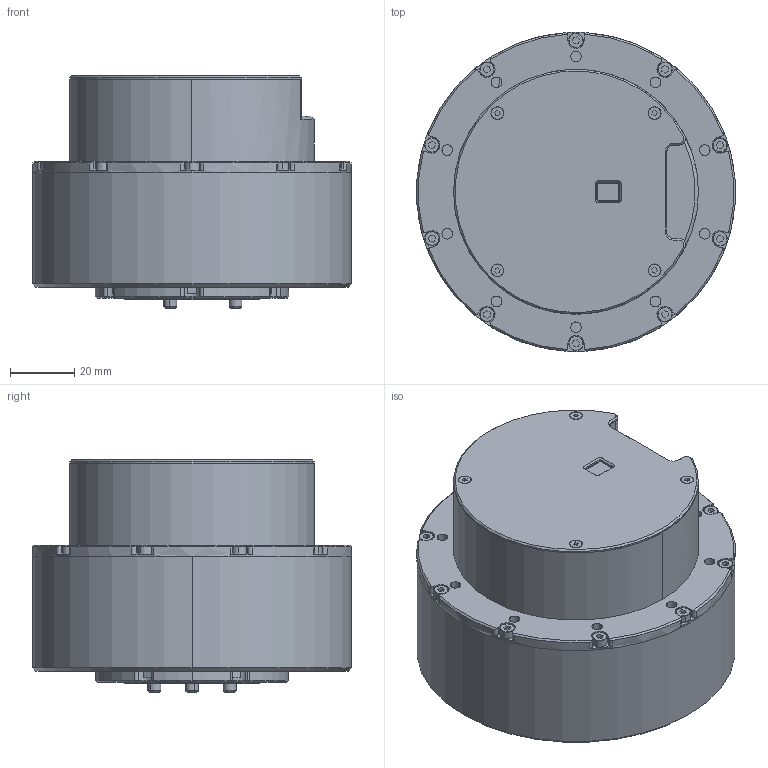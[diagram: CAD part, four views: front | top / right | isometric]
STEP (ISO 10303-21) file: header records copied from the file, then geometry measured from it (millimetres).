
FILE_DESCRIPTION (( 'STEP AP214' ), '1' );
FILE_NAME ('MG8016BR-i24.STEP', '2023-07-05T01:35:05', ( 'zhang_jianheng@outlook.com' ), ( 'HP' ), 'SwSTEP 2.0', 'SolidWorks 2020', '' );
FILE_SCHEMA (( 'AUTOMOTIVE_DESIGN' ));
Length unit declared in the file: millimetre
Products named in the file (1): MG8016BR-i24
Bounding box: 99 x 99 x 72 mm (x, y, z)
Volume: 385507.2 mm3; surface area: 87763.9 mm2
Topology: 44 solids, 45 shells, 2531 faces, 6459 edges, 4151 vertices
Faces by surface type: plane 1346, cylinder 843, cone 249, torus 56, bspline 37
Entity records: 82118 total; most frequent: CARTESIAN_POINT 17801, DIRECTION 13436, ORIENTED_EDGE 12818, EDGE_CURVE 6409, AXIS2_PLACEMENT_3D 4712, VERTEX_POINT 4151, VECTOR 4012, LINE 4012
